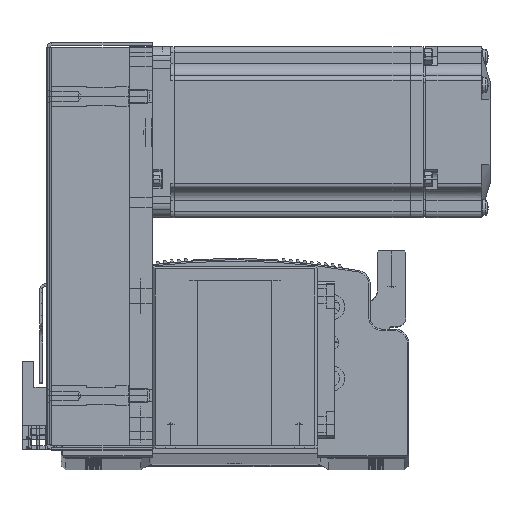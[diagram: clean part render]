
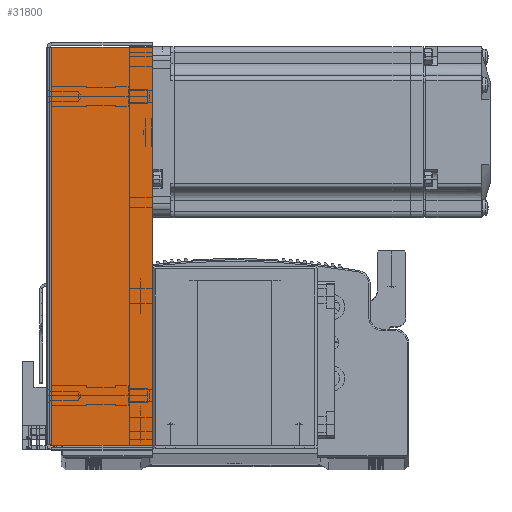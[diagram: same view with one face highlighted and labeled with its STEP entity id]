
A CAD part, top view. The second image highlights one B-rep face of the part: STEP entity #31800.
In plain terms, the highlighted planar face has unit normal (0, 0, 1) as drawn and (0, 0, -1) by its records, which use the part's own axes.
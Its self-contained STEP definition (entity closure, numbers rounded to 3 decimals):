
#11371 = ORIENTED_EDGE ( 'NONE', *, *, #58991, .T. ) ;
#11449 = ORIENTED_EDGE ( 'NONE', *, *, #58935, .F. ) ;
#11467 = ORIENTED_EDGE ( 'NONE', *, *, #58933, .F. ) ;
#11485 = ORIENTED_EDGE ( 'NONE', *, *, #58951, .T. ) ;
#21514 = DIRECTION ( 'NONE',  ( 1., 0., 0. ) ) ;
#21522 = CARTESIAN_POINT ( 'NONE',  ( 0., 36., -33.5 ) ) ;
#21671 = CARTESIAN_POINT ( 'NONE',  ( -69.793, 0., -33.5 ) ) ;
#21713 = DIRECTION ( 'NONE',  ( 0., 1., 0. ) ) ;
#27367 = EDGE_LOOP ( 'NONE', ( #11467, #11371, #11485, #11449 ) ) ;
#27774 = CARTESIAN_POINT ( 'NONE',  ( 0., 0., -33.5 ) ) ;
#27796 = PLANE ( 'NONE',  #36057 ) ;
#27797 = DIRECTION ( 'NONE',  ( 0., 0., 1. ) ) ;
#27892 = DIRECTION ( 'NONE',  ( 0., -1., 0. ) ) ;
#31800 = ADVANCED_FACE ( 'NONE', ( #42115 ), #27796, .F. ) ;
#36057 = AXIS2_PLACEMENT_3D ( 'NONE', #27774, #27797, #27892 ) ;
#42115 = FACE_OUTER_BOUND ( 'NONE', #27367, .T. ) ;
#47722 = LINE ( 'NONE', #57515, #47797 ) ;
#47731 = LINE ( 'NONE', #57512, #47744 ) ;
#47744 = VECTOR ( 'NONE', #57473, 1000. ) ;
#47797 = VECTOR ( 'NONE', #57500, 1000. ) ;
#47907 = VECTOR ( 'NONE', #21514, 1000. ) ;
#47934 = LINE ( 'NONE', #21522, #47907 ) ;
#48096 = LINE ( 'NONE', #21671, #48143 ) ;
#48143 = VECTOR ( 'NONE', #21713, 1000. ) ;
#57473 = DIRECTION ( 'NONE',  ( 1., 0., 0. ) ) ;
#57500 = DIRECTION ( 'NONE',  ( 0., 1., 0. ) ) ;
#57512 = CARTESIAN_POINT ( 'NONE',  ( 71.5, 0.737, -33.5 ) ) ;
#57515 = CARTESIAN_POINT ( 'NONE',  ( 69.793, 0., -33.5 ) ) ;
#58933 = EDGE_CURVE ( 'NONE', #82217, #82203, #47731, .T. ) ;
#58935 = EDGE_CURVE ( 'NONE', #82203, #82221, #47722, .T. ) ;
#58951 = EDGE_CURVE ( 'NONE', #82240, #82221, #47934, .T. ) ;
#58991 = EDGE_CURVE ( 'NONE', #82217, #82240, #48096, .T. ) ;
#74348 = CARTESIAN_POINT ( 'NONE',  ( 69.793, 0.737, -33.5 ) ) ;
#74487 = CARTESIAN_POINT ( 'NONE',  ( 69.793, 36., -33.5 ) ) ;
#74550 = CARTESIAN_POINT ( 'NONE',  ( -69.793, 0.737, -33.5 ) ) ;
#74655 = CARTESIAN_POINT ( 'NONE',  ( -69.793, 36., -33.5 ) ) ;
#82203 = VERTEX_POINT ( 'NONE', #74348 ) ;
#82217 = VERTEX_POINT ( 'NONE', #74550 ) ;
#82221 = VERTEX_POINT ( 'NONE', #74487 ) ;
#82240 = VERTEX_POINT ( 'NONE', #74655 ) ;
